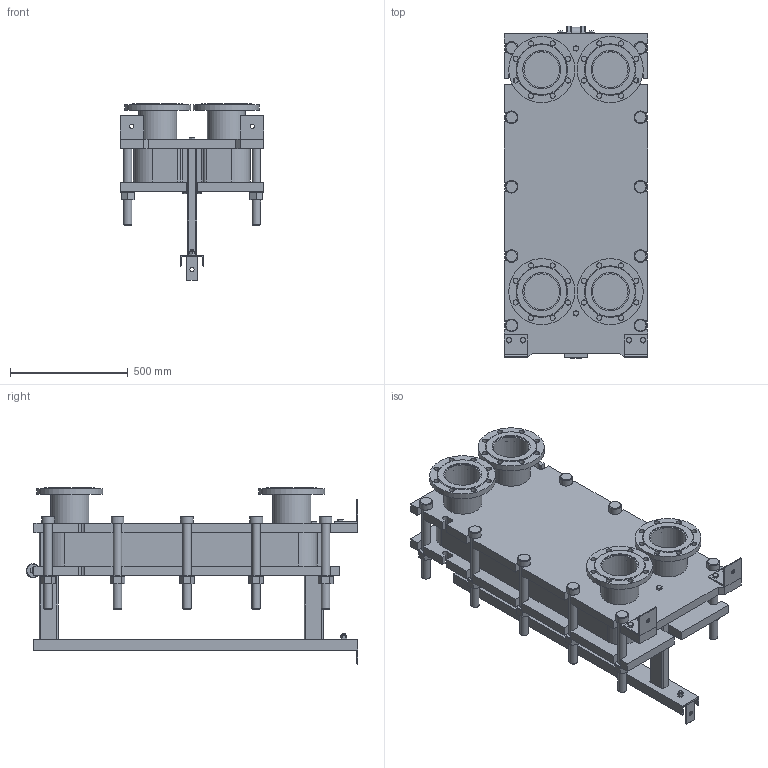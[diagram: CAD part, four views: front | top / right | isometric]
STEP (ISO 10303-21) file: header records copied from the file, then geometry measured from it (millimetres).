
FILE_DESCRIPTION(/* description */ (''),/* implementation_level */ '2;1');
FILE_NAME(/* name */ 'C:\Users\zhuro\Desktop\ENCO\TO\ЭН-041\ЭН-0,5-041-41-1.stp',/* time_stamp */ '2022-06-06T10:51:59+03:00',/* author */ ('zhuro'),/* organization */ (''),/* preprocessor_version */ 'ST-DEVELOPER v18.1',/* originating_system */ 'Autodesk Inventor 2022',/* authorisation */ '');
FILE_SCHEMA (('AUTOMOTIVE_DESIGN { 1 0 10303 214 3 1 1 }'));
Length unit declared in the file: millimetre
Products named in the file (1): ЭН-0,5-041-41-1
Bounding box: 610 x 1406.5 x 747.5 mm (x, y, z)
Volume: 155883824 mm3; surface area: 7723609.5 mm2
Topology: 52 solids, 52 shells, 711 faces, 1696 edges, 1094 vertices
Faces by surface type: plane 487, cylinder 177, cone 41, torus 6
Full cylindrical faces by diameter (mm): 8 x4, 10 x2, 16 x8, 18 x3, 22 x32, 36 x24, 50 x1, 54 x10, 60 x12, 151 x4, 161 x8, 280 x4
Entity records: 22667 total; most frequent: CARTESIAN_POINT 5230, DIRECTION 3644, ORIENTED_EDGE 3392, EDGE_CURVE 1696, AXIS2_PLACEMENT_3D 1272, LINE 1100, VECTOR 1100, VERTEX_POINT 1094
